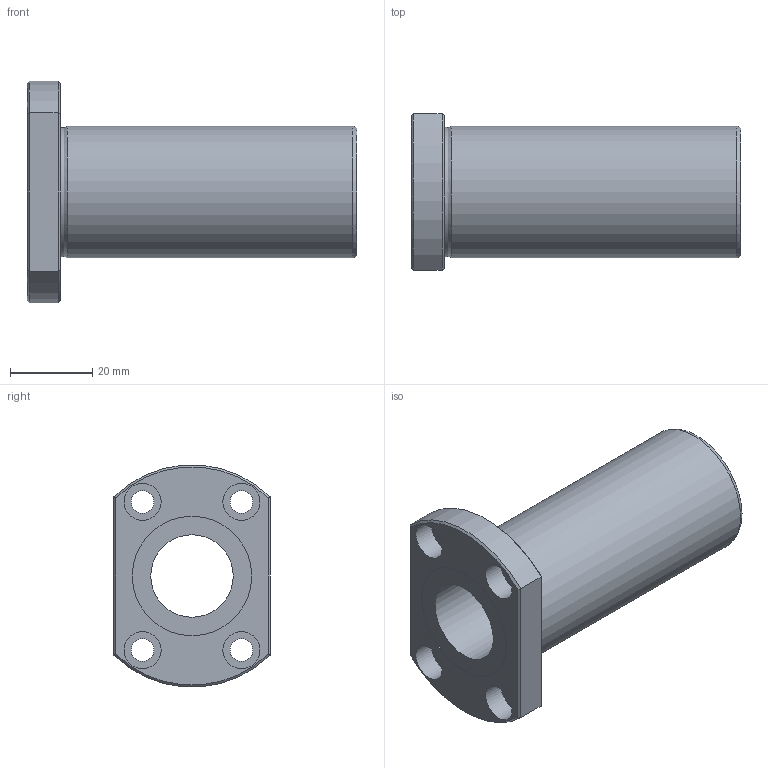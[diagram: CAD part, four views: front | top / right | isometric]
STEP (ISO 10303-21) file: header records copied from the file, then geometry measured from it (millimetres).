
FILE_DESCRIPTION((''),'2;1');
FILE_NAME('D:\製品 (図面)\カタログ用3D\リニアベアリング関連\STEP形式\LFDT\LFDT20B.stp','2010-06-03T09:45:52',('Tsuchiya'),(''),'Autodesk Inventor 10','Autodesk Inventor 10','');
FILE_SCHEMA(('AUTOMOTIVE_DESIGN { 1 0 10303 214 1 1 1 1 }'));
Length unit declared in the file: millimetre
Products named in the file (1): LFDT20B
Bounding box: 80 x 38 x 53.8 mm (x, y, z)
Volume: 45921.6 mm3; surface area: 17159 mm2
Topology: 1 solids, 1 shells, 35 faces, 68 edges, 42 vertices
Faces by surface type: plane 15, cylinder 14, cone 4, torus 1, bspline 1
Full cylindrical faces by diameter (mm): 5.5 x4, 9 x4, 20 x1, 29 x2, 32 x1
Entity records: 935 total; most frequent: CARTESIAN_POINT 218, DIRECTION 150, ORIENTED_EDGE 108, AXIS2_PLACEMENT_3D 69, EDGE_LOOP 66, EDGE_CURVE 54, VERTEX_POINT 42, FACE_OUTER_BOUND 35
